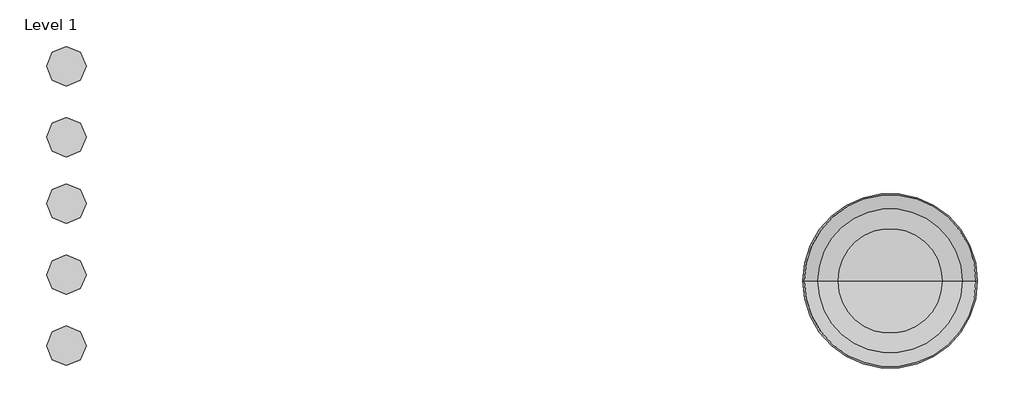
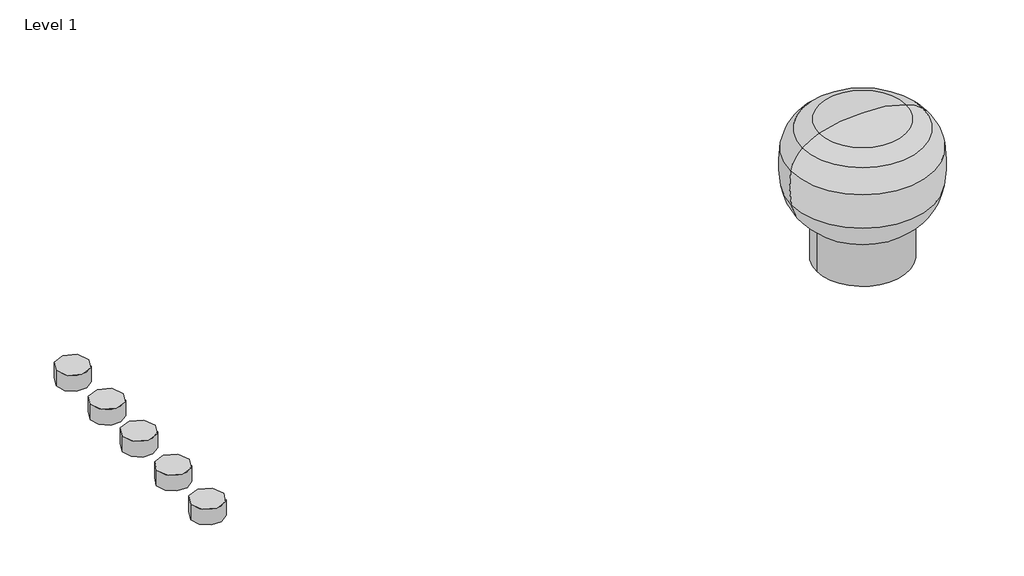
# One storey: 5 proxies, 1 furniture element.
"""IFC4 building model written with IfcOpenShell, lengths in millimetres."""

from ifc_helpers import new_model, si_unit, origin, place, context, project, spatial, transform, mapped, element, save
from components import materialmodel_materialmodel_02e69005, furniture_cb224049

model = new_model("IFC4")

# Units and contexts
model_context = context("Model", 3, world=origin())
ifc_project = project(units=[si_unit("LENGTHUNIT", "METRE", prefix="MILLI")], contexts=[model_context])

# Site, building, storey
site = spatial("IfcSite", under=ifc_project)
building = spatial("IfcBuilding", under=site)
storey = spatial("IfcBuildingStorey", under=building, Name="Level 1", Elevation=0.0)

# Proxies
placement = place(None, origin())
materialmodel_materialmodel_shape = materialmodel_materialmodel_02e69005(model_context)
element("IfcBuildingElementProxy", 1, Name="MaterialModel : MaterialModel", ObjectType="MaterialModel : MaterialModel", at=placement, inside=storey, context=model_context, shape_type="MappedRepresentation", body=[
    mapped(materialmodel_materialmodel_shape, transform((-5117.4546213, 3650.6495265, 0.0), x_axis=(1.0, 0.0, 0.0), y_axis=(0.0, 1.0, 0.0), z_axis=(0.0, 0.0, 1.0))),
])
element("IfcBuildingElementProxy", 2, Name="MaterialModel : MaterialModel", ObjectType="MaterialModel : MaterialModel", at=placement, inside=storey, context=model_context, shape_type="MappedRepresentation", body=[
    mapped(materialmodel_materialmodel_shape, transform((-5117.4546213, 3470.6495265, 0.0), x_axis=(1.0, 0.0, 0.0), y_axis=(0.0, 1.0, 0.0), z_axis=(0.0, 0.0, 1.0))),
])
element("IfcBuildingElementProxy", 3, Name="MaterialModel : MaterialModel", ObjectType="MaterialModel : MaterialModel", at=placement, inside=storey, context=model_context, shape_type="MappedRepresentation", body=[
    mapped(materialmodel_materialmodel_shape, transform((-5117.4546213, 3301.9662883, 0.0), x_axis=(1.0, 0.0, 0.0), y_axis=(0.0, 1.0, 0.0), z_axis=(0.0, 0.0, 1.0))),
])
element("IfcBuildingElementProxy", 4, Name="MaterialModel : MaterialModel", ObjectType="MaterialModel : MaterialModel", at=placement, inside=storey, context=model_context, shape_type="MappedRepresentation", body=[
    mapped(materialmodel_materialmodel_shape, transform((-5117.4546213, 3121.9662883, 0.0), x_axis=(1.0, 0.0, 0.0), y_axis=(0.0, 1.0, 0.0), z_axis=(0.0, 0.0, 1.0))),
])
element("IfcBuildingElementProxy", 5, Name="MaterialModel : MaterialModel", ObjectType="MaterialModel : MaterialModel", at=placement, inside=storey, context=model_context, shape_type="MappedRepresentation", body=[
    mapped(materialmodel_materialmodel_shape, transform((-5117.4546213, 2941.9662883, 0.0), x_axis=(1.0, 0.0, 0.0), y_axis=(0.0, 1.0, 0.0), z_axis=(0.0, 0.0, 1.0))),
])

# Furniture
furniture_shape = furniture_cb224049(model_context)
element("IfcFurniture", 6, ObjectType="Norr11 - Champagne - Pouf : Norr11 - Champagne - Pouf", at=placement, inside=storey, context=model_context, shape_type="MappedRepresentation", body=[
    mapped(furniture_shape, transform((-3030.8306156, 3106.2721555, 0.0), x_axis=(1.0, 0.0, 0.0), y_axis=(0.0, 1.0, 0.0), z_axis=(0.0, 0.0, 1.0))),
])

save(model, "model.ifc")
